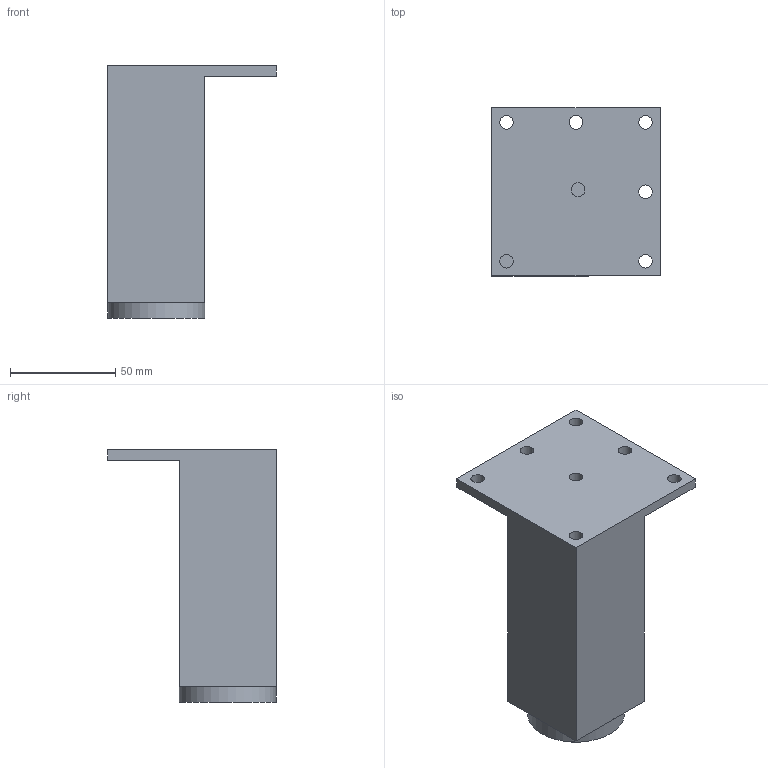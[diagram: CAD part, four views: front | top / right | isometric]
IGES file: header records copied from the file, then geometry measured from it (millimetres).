
Start section: Data from Parasolid IGES Translator 20.0.26, Copyright(c) 2006 Siemens P LM Software. All Rights Reserved.
Global section: file name: 9119544.igs; native system: By Siemens PLM Incorporated; preprocessor: XPlus GENERIC/IGES 20.0.26; author: Noname; organization: Noname; date: 20210125.170518; units: millimetre
Bounding box: 80 x 80 x 120 mm (x, y, z)
Surface area: 35646.6 mm2 (no closed solid volume)
Topology: 0 solids, 0 shells, 23 faces, 104 edges, 93 vertices
Faces by surface type: extrusion 15, revolution 8
